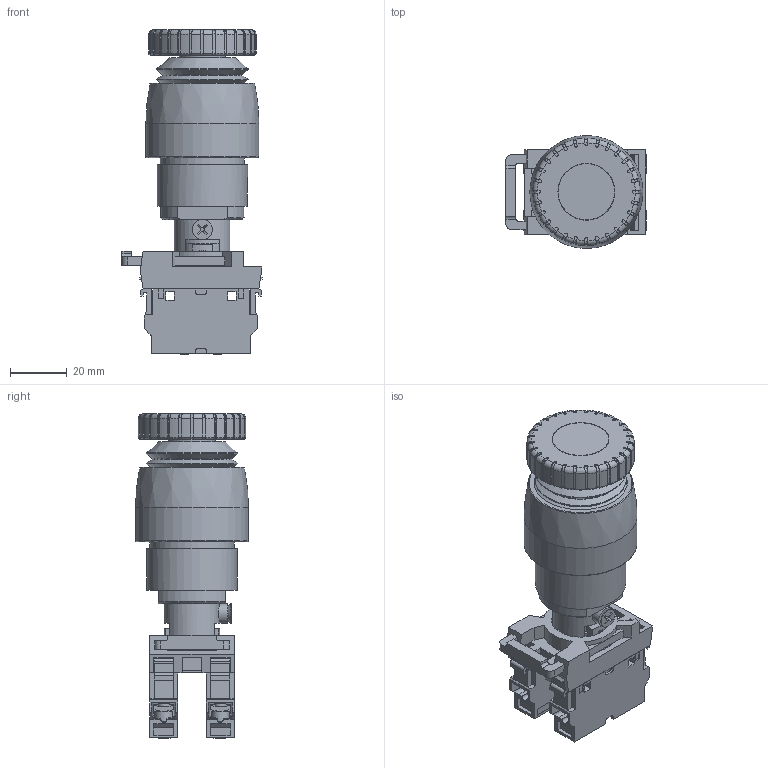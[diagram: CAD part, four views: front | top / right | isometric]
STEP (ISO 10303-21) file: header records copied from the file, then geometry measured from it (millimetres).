
FILE_DESCRIPTION((''),'2;1');
FILE_NAME('\\192.168.5.25\cortem_klient\INVENTOR БАЗА МОДЕЛЕЙ\Актуальная база моделей для отдела продаж\Элементы управления и индикации\КГВ07\КГВ07К02_M1.stp','2019-04-09T12:10:14',('A.S.Kozlov'),(''),'Autodesk Inventor 2012','Autodesk Inventor 2012','');
FILE_SCHEMA(('CONFIG_CONTROL_DESIGN'));
Length unit declared in the file: millimetre
Products named in the file (1): КГВ07К02_M1_Внешний контур_1
Bounding box: 49.65 x 40 x 114.85 mm (x, y, z)
Surface area: 70515.5 mm2 (no closed solid volume)
Topology: 0 solids, 29 shells, 1818 faces, 4952 edges, 3244 vertices
Faces by surface type: plane 1206, cylinder 374, cone 101, torus 80, bspline 51, sphere 4, revolution 2
Full cylindrical faces by diameter (mm): 1.2 x1, 1.3 x6, 1.95 x2, 2.1 x20, 2.95 x2, 3 x1, 3.1 x1, 3.2 x2, 3.242 x1, 3.85 x1, 4 x6, 4.15 x1, 5 x2, 5.5 x1, 5.8 x1, 6.2 x4, 6.4 x1, 6.5 x4, 7 x2, 7.2 x2, 7.4 x1, 7.7 x1, 7.9 x1, 7.95 x2, 8 x1, 11.3 x1, 12 x1, 14.3 x1, 14.85 x1, 15.45 x1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
Entity records: 65163 total; most frequent: CARTESIAN_POINT 18435, ORIENTED_EDGE 9362, DIRECTION 9066, EDGE_CURVE 4681, VERTEX_POINT 3162, VECTOR 3096, LINE 3096, AXIS2_PLACEMENT_3D 2984
